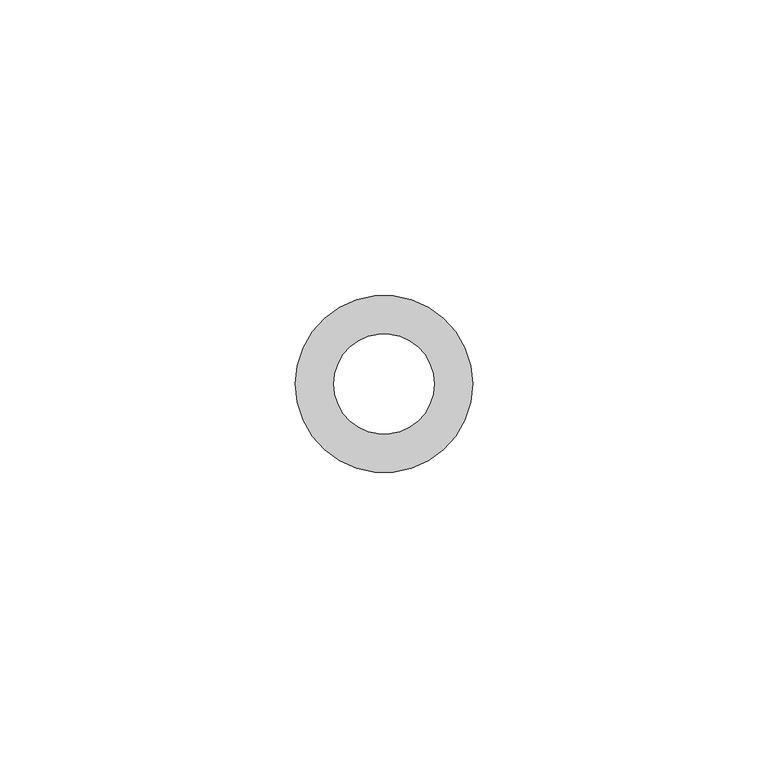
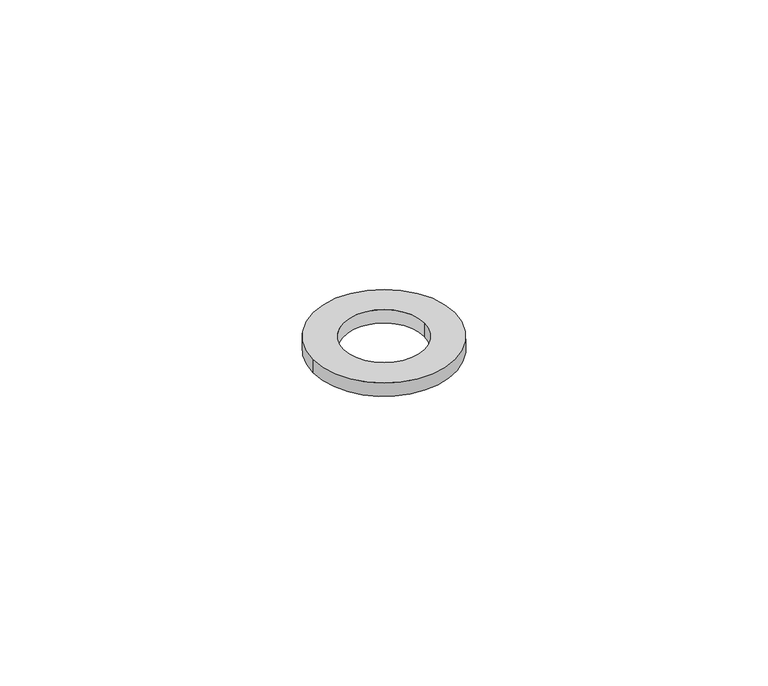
"""IFC4 building model written with IfcOpenShell, lengths in millimetres: fastener geometry, REC-A-M16 : A-M16."""

from ifc_helpers import new_model, si_unit, point, origin, origin_with_axes, origin_2d, place, context, project, spatial, circle_curve, trimmed, segment, composite_curve, outline, extrude, source, transform, mapped, element, save


def fastener_81d81b55(model_context):
    return source(origin(), model_context, "Body", "SweptSolid", [
        extrude(outline(composite_curve([segment(trimmed(circle_curve(origin_2d(), 15.0), [point((-15.0, 0.0))], [point((15.0, 0.0))], False, "CARTESIAN"), True, "CONTINUOUS"), segment(trimmed(circle_curve(origin_2d(), 15.0), [point((15.0, 0.0))], [point((-15.0, 0.0))], False, "CARTESIAN"), True, "CONTINUOUS")], self_intersect=False), holes=[composite_curve([segment(trimmed(circle_curve(origin_2d(), 8.5), [point((-8.5, 0.0))], [point((8.5, 0.0))], True, "CARTESIAN"), True, "CONTINUOUS"), segment(trimmed(circle_curve(origin_2d(), 8.5), [point((8.5, 0.0))], [point((-8.5, 0.0))], True, "CARTESIAN"), True, "CONTINUOUS")], self_intersect=False)]), origin_with_axes(), (0.0, 0.0, 1.0), 3.0),
    ])


if __name__ == "__main__":
    model = new_model("IFC4")
    model_context = context("Model", 3, world=origin())
    ifc_project = project(units=[si_unit("LENGTHUNIT", "METRE", prefix="MILLI")], contexts=[model_context])
    site = spatial("IfcSite", under=ifc_project)
    building = spatial("IfcBuilding", under=site)
    placement = place(None, origin())
    fastener_shape = fastener_81d81b55(model_context)
    element("IfcFastener", 1, ObjectType="REC-A-M16 : A-M16", at=placement, inside=building, context=model_context, shape_type="MappedRepresentation", body=[
        mapped(fastener_shape, transform((0.0, 0.0, 0.0), x_axis=(1.0, 0.0, 0.0), y_axis=(0.0, 1.0, 0.0), z_axis=(0.0, 0.0, 1.0))),
    ])
    save(model, "model.ifc")
